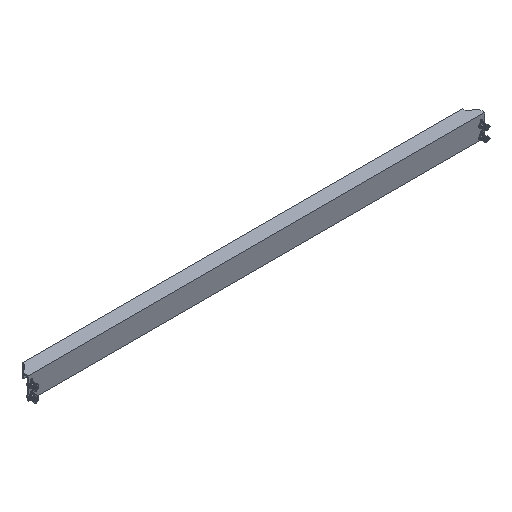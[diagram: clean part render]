
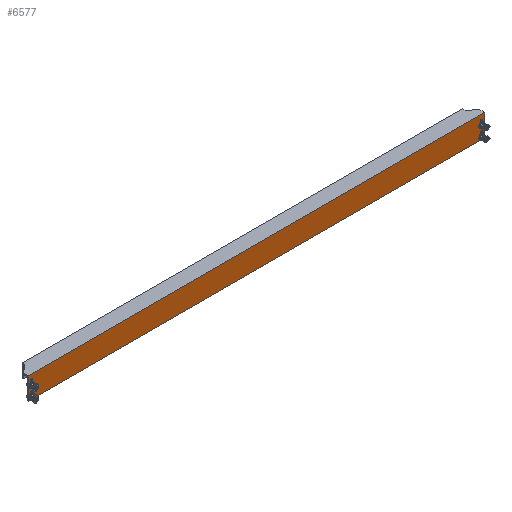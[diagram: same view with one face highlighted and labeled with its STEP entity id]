
A CAD part, isometric view. The second image highlights one B-rep face of the part: STEP entity #6577.
In plain terms, the highlighted planar face has unit normal (0, -1, 0) as drawn and (0, 0, -1) by its records, which use the part's own axes.
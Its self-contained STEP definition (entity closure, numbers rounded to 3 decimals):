
#5330 = VERTEX_POINT('',#5331);
#5331 = CARTESIAN_POINT('',(570.,16.5,-36.));
#5337 = EDGE_CURVE('',#5338,#5330,#5340,.T.);
#5338 = VERTEX_POINT('',#5339);
#5339 = CARTESIAN_POINT('',(-570.,16.5,-36.));
#5340 = LINE('',#5341,#5342);
#5341 = CARTESIAN_POINT('',(0.,16.5,-36.));
#5342 = VECTOR('',#5343,1.);
#5343 = DIRECTION('',(1.,-0.,-0.));
#6456 = VERTEX_POINT('',#6457);
#6457 = CARTESIAN_POINT('',(-570.,12.9,-36.));
#6472 = EDGE_CURVE('',#6456,#5338,#6473,.T.);
#6473 = LINE('',#6474,#6475);
#6474 = CARTESIAN_POINT('',(-570.,12.9,-36.));
#6475 = VECTOR('',#6476,1.);
#6476 = DIRECTION('',(-0.,1.,0.));
#6496 = VERTEX_POINT('',#6497);
#6497 = CARTESIAN_POINT('',(570.,12.9,-36.));
#6503 = EDGE_CURVE('',#6496,#5330,#6504,.T.);
#6504 = LINE('',#6505,#6506);
#6505 = CARTESIAN_POINT('',(570.,0.,-36.));
#6506 = VECTOR('',#6507,1.);
#6507 = DIRECTION('',(0.,1.,0.));
#6519 = EDGE_CURVE('',#6520,#6496,#6522,.T.);
#6520 = VERTEX_POINT('',#6521);
#6521 = CARTESIAN_POINT('',(570.,-38.5,-36.));
#6522 = LINE('',#6523,#6524);
#6523 = CARTESIAN_POINT('',(570.,13.5,-36.));
#6524 = VECTOR('',#6525,1.);
#6525 = DIRECTION('',(-0.,1.,0.));
#6559 = EDGE_CURVE('',#6456,#6560,#6562,.T.);
#6560 = VERTEX_POINT('',#6561);
#6561 = CARTESIAN_POINT('',(-570.,-38.5,-36.));
#6562 = LINE('',#6563,#6564);
#6563 = CARTESIAN_POINT('',(-570.,-38.5,-36.));
#6564 = VECTOR('',#6565,1.);
#6565 = DIRECTION('',(0.,-1.,0.));
#6577 = ADVANCED_FACE('',(#6578,#6614,#6650,#6686,#6722),#6735,.T.);
#6578 = FACE_BOUND('',#6579,.T.);
#6579 = EDGE_LOOP('',(#6580,#6591,#6599,#6608));
#6580 = ORIENTED_EDGE('',*,*,#6581,.F.);
#6581 = EDGE_CURVE('',#6582,#6584,#6586,.T.);
#6582 = VERTEX_POINT('',#6583);
#6583 = CARTESIAN_POINT('',(559.,-23.,-36.));
#6584 = VERTEX_POINT('',#6585);
#6585 = CARTESIAN_POINT('',(566.,-23.,-36.));
#6586 = CIRCLE('',#6587,3.5);
#6587 = AXIS2_PLACEMENT_3D('',#6588,#6589,#6590);
#6588 = CARTESIAN_POINT('',(562.5,-23.,-36.));
#6589 = DIRECTION('',(0.,0.,-1.));
#6590 = DIRECTION('',(0.,1.,0.));
#6591 = ORIENTED_EDGE('',*,*,#6592,.F.);
#6592 = EDGE_CURVE('',#6593,#6582,#6595,.T.);
#6593 = VERTEX_POINT('',#6594);
#6594 = CARTESIAN_POINT('',(559.,-32.,-36.));
#6595 = LINE('',#6596,#6597);
#6596 = CARTESIAN_POINT('',(559.,0.,-36.));
#6597 = VECTOR('',#6598,1.);
#6598 = DIRECTION('',(0.,1.,0.));
#6599 = ORIENTED_EDGE('',*,*,#6600,.F.);
#6600 = EDGE_CURVE('',#6601,#6593,#6603,.T.);
#6601 = VERTEX_POINT('',#6602);
#6602 = CARTESIAN_POINT('',(566.,-32.,-36.));
#6603 = CIRCLE('',#6604,3.5);
#6604 = AXIS2_PLACEMENT_3D('',#6605,#6606,#6607);
#6605 = CARTESIAN_POINT('',(562.5,-32.,-36.));
#6606 = DIRECTION('',(0.,0.,-1.));
#6607 = DIRECTION('',(0.,1.,0.));
#6608 = ORIENTED_EDGE('',*,*,#6609,.F.);
#6609 = EDGE_CURVE('',#6584,#6601,#6610,.T.);
#6610 = LINE('',#6611,#6612);
#6611 = CARTESIAN_POINT('',(566.,0.,-36.));
#6612 = VECTOR('',#6613,1.);
#6613 = DIRECTION('',(0.,-1.,0.));
#6614 = FACE_BOUND('',#6615,.T.);
#6615 = EDGE_LOOP('',(#6616,#6627,#6635,#6644));
#6616 = ORIENTED_EDGE('',*,*,#6617,.F.);
#6617 = EDGE_CURVE('',#6618,#6620,#6622,.T.);
#6618 = VERTEX_POINT('',#6619);
#6619 = CARTESIAN_POINT('',(-566.,-23.,-36.));
#6620 = VERTEX_POINT('',#6621);
#6621 = CARTESIAN_POINT('',(-559.,-23.,-36.));
#6622 = CIRCLE('',#6623,3.5);
#6623 = AXIS2_PLACEMENT_3D('',#6624,#6625,#6626);
#6624 = CARTESIAN_POINT('',(-562.5,-23.,-36.));
#6625 = DIRECTION('',(0.,0.,-1.));
#6626 = DIRECTION('',(0.,1.,0.));
#6627 = ORIENTED_EDGE('',*,*,#6628,.F.);
#6628 = EDGE_CURVE('',#6629,#6618,#6631,.T.);
#6629 = VERTEX_POINT('',#6630);
#6630 = CARTESIAN_POINT('',(-566.,-32.,-36.));
#6631 = LINE('',#6632,#6633);
#6632 = CARTESIAN_POINT('',(-566.,0.,-36.));
#6633 = VECTOR('',#6634,1.);
#6634 = DIRECTION('',(0.,1.,0.));
#6635 = ORIENTED_EDGE('',*,*,#6636,.F.);
#6636 = EDGE_CURVE('',#6637,#6629,#6639,.T.);
#6637 = VERTEX_POINT('',#6638);
#6638 = CARTESIAN_POINT('',(-559.,-32.,-36.));
#6639 = CIRCLE('',#6640,3.5);
#6640 = AXIS2_PLACEMENT_3D('',#6641,#6642,#6643);
#6641 = CARTESIAN_POINT('',(-562.5,-32.,-36.));
#6642 = DIRECTION('',(0.,0.,-1.));
#6643 = DIRECTION('',(0.,1.,0.));
#6644 = ORIENTED_EDGE('',*,*,#6645,.F.);
#6645 = EDGE_CURVE('',#6620,#6637,#6646,.T.);
#6646 = LINE('',#6647,#6648);
#6647 = CARTESIAN_POINT('',(-559.,0.,-36.));
#6648 = VECTOR('',#6649,1.);
#6649 = DIRECTION('',(0.,-1.,0.));
#6650 = FACE_BOUND('',#6651,.T.);
#6651 = EDGE_LOOP('',(#6652,#6663,#6671,#6680));
#6652 = ORIENTED_EDGE('',*,*,#6653,.F.);
#6653 = EDGE_CURVE('',#6654,#6656,#6658,.T.);
#6654 = VERTEX_POINT('',#6655);
#6655 = CARTESIAN_POINT('',(559.,2.,-36.));
#6656 = VERTEX_POINT('',#6657);
#6657 = CARTESIAN_POINT('',(566.,2.,-36.));
#6658 = CIRCLE('',#6659,3.5);
#6659 = AXIS2_PLACEMENT_3D('',#6660,#6661,#6662);
#6660 = CARTESIAN_POINT('',(562.5,2.,-36.));
#6661 = DIRECTION('',(0.,0.,-1.));
#6662 = DIRECTION('',(0.,1.,0.));
#6663 = ORIENTED_EDGE('',*,*,#6664,.F.);
#6664 = EDGE_CURVE('',#6665,#6654,#6667,.T.);
#6665 = VERTEX_POINT('',#6666);
#6666 = CARTESIAN_POINT('',(559.,-7.,-36.));
#6667 = LINE('',#6668,#6669);
#6668 = CARTESIAN_POINT('',(559.,0.,-36.));
#6669 = VECTOR('',#6670,1.);
#6670 = DIRECTION('',(0.,1.,0.));
#6671 = ORIENTED_EDGE('',*,*,#6672,.F.);
#6672 = EDGE_CURVE('',#6673,#6665,#6675,.T.);
#6673 = VERTEX_POINT('',#6674);
#6674 = CARTESIAN_POINT('',(566.,-7.,-36.));
#6675 = CIRCLE('',#6676,3.5);
#6676 = AXIS2_PLACEMENT_3D('',#6677,#6678,#6679);
#6677 = CARTESIAN_POINT('',(562.5,-7.,-36.));
#6678 = DIRECTION('',(0.,0.,-1.));
#6679 = DIRECTION('',(0.,1.,0.));
#6680 = ORIENTED_EDGE('',*,*,#6681,.F.);
#6681 = EDGE_CURVE('',#6656,#6673,#6682,.T.);
#6682 = LINE('',#6683,#6684);
#6683 = CARTESIAN_POINT('',(566.,0.,-36.));
#6684 = VECTOR('',#6685,1.);
#6685 = DIRECTION('',(0.,-1.,0.));
#6686 = FACE_BOUND('',#6687,.T.);
#6687 = EDGE_LOOP('',(#6688,#6699,#6707,#6716));
#6688 = ORIENTED_EDGE('',*,*,#6689,.F.);
#6689 = EDGE_CURVE('',#6690,#6692,#6694,.T.);
#6690 = VERTEX_POINT('',#6691);
#6691 = CARTESIAN_POINT('',(-566.,2.,-36.));
#6692 = VERTEX_POINT('',#6693);
#6693 = CARTESIAN_POINT('',(-559.,2.,-36.));
#6694 = CIRCLE('',#6695,3.5);
#6695 = AXIS2_PLACEMENT_3D('',#6696,#6697,#6698);
#6696 = CARTESIAN_POINT('',(-562.5,2.,-36.));
#6697 = DIRECTION('',(0.,0.,-1.));
#6698 = DIRECTION('',(0.,1.,0.));
#6699 = ORIENTED_EDGE('',*,*,#6700,.F.);
#6700 = EDGE_CURVE('',#6701,#6690,#6703,.T.);
#6701 = VERTEX_POINT('',#6702);
#6702 = CARTESIAN_POINT('',(-566.,-7.,-36.));
#6703 = LINE('',#6704,#6705);
#6704 = CARTESIAN_POINT('',(-566.,0.,-36.));
#6705 = VECTOR('',#6706,1.);
#6706 = DIRECTION('',(0.,1.,0.));
#6707 = ORIENTED_EDGE('',*,*,#6708,.F.);
#6708 = EDGE_CURVE('',#6709,#6701,#6711,.T.);
#6709 = VERTEX_POINT('',#6710);
#6710 = CARTESIAN_POINT('',(-559.,-7.,-36.));
#6711 = CIRCLE('',#6712,3.5);
#6712 = AXIS2_PLACEMENT_3D('',#6713,#6714,#6715);
#6713 = CARTESIAN_POINT('',(-562.5,-7.,-36.));
#6714 = DIRECTION('',(0.,0.,-1.));
#6715 = DIRECTION('',(0.,1.,0.));
#6716 = ORIENTED_EDGE('',*,*,#6717,.F.);
#6717 = EDGE_CURVE('',#6692,#6709,#6718,.T.);
#6718 = LINE('',#6719,#6720);
#6719 = CARTESIAN_POINT('',(-559.,0.,-36.));
#6720 = VECTOR('',#6721,1.);
#6721 = DIRECTION('',(0.,-1.,0.));
#6722 = FACE_BOUND('',#6723,.T.);
#6723 = EDGE_LOOP('',(#6724,#6725,#6726,#6727,#6728,#6729));
#6724 = ORIENTED_EDGE('',*,*,#6559,.F.);
#6725 = ORIENTED_EDGE('',*,*,#6472,.T.);
#6726 = ORIENTED_EDGE('',*,*,#5337,.T.);
#6727 = ORIENTED_EDGE('',*,*,#6503,.F.);
#6728 = ORIENTED_EDGE('',*,*,#6519,.F.);
#6729 = ORIENTED_EDGE('',*,*,#6730,.F.);
#6730 = EDGE_CURVE('',#6560,#6520,#6731,.T.);
#6731 = LINE('',#6732,#6733);
#6732 = CARTESIAN_POINT('',(570.,-38.5,-36.));
#6733 = VECTOR('',#6734,1.);
#6734 = DIRECTION('',(1.,0.,0.));
#6735 = PLANE('',#6736);
#6736 = AXIS2_PLACEMENT_3D('',#6737,#6738,#6739);
#6737 = CARTESIAN_POINT('',(0.,0.,-36.));
#6738 = DIRECTION('',(0.,0.,-1.));
#6739 = DIRECTION('',(0.,1.,0.));
